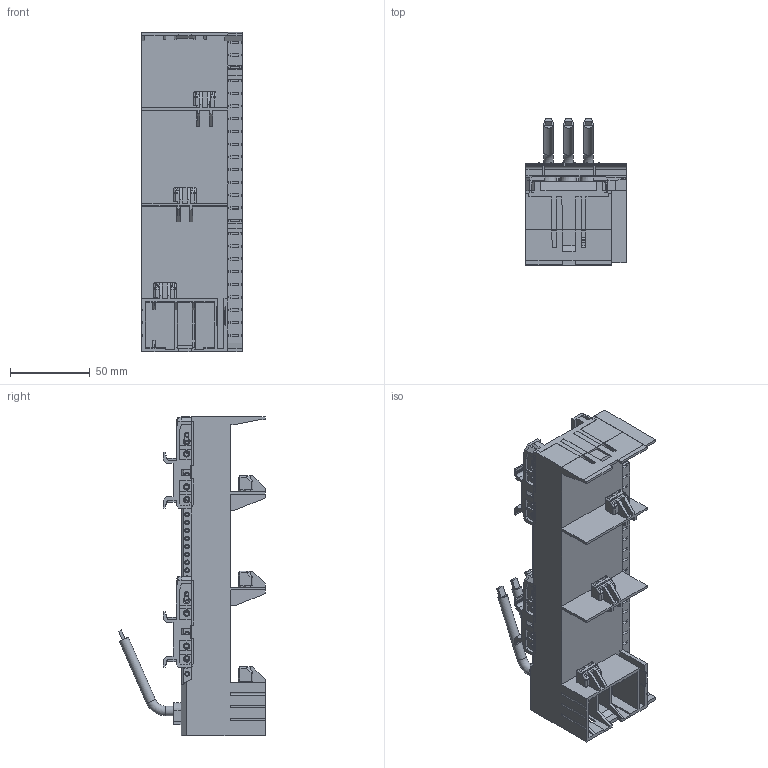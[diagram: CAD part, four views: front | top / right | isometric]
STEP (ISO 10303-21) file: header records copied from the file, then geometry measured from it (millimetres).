
FILE_DESCRIPTION (( 'STEP AP203' ), '1' );
FILE_NAME ('55369.STEP', '2021-08-18T05:48:16', ( '' ), ( '' ), 'SwSTEP 2.0', 'SolidWorks 2017', '' );
FILE_SCHEMA (( 'CONFIG_CONTROL_DESIGN' ));
Length unit declared in the file: millimetre
Products named in the file (2): 55369
Bounding box: 63.05 x 92.2 x 200.4 mm (x, y, z)
Volume: 373554.8 mm3; surface area: 119941.5 mm2
Topology: 9 solids, 26 shells, 2346 faces, 6448 edges, 4298 vertices
Faces by surface type: plane 1672, cylinder 427, cone 173, bspline 71, torus 3
Full cylindrical faces by diameter (mm): 1.988 x130, 2.6 x14, 2.982 x12, 3.479 x8, 4.2 x2, 5.169 x2, 5.964 x11, 6 x6
Entity records: 92368 total; most frequent: CARTESIAN_POINT 35768, ORIENTED_EDGE 11914, DIRECTION 10482, EDGE_CURVE 5957, VECTOR 4340, LINE 4340, VERTEX_POINT 4156, AXIS2_PLACEMENT_3D 3071
